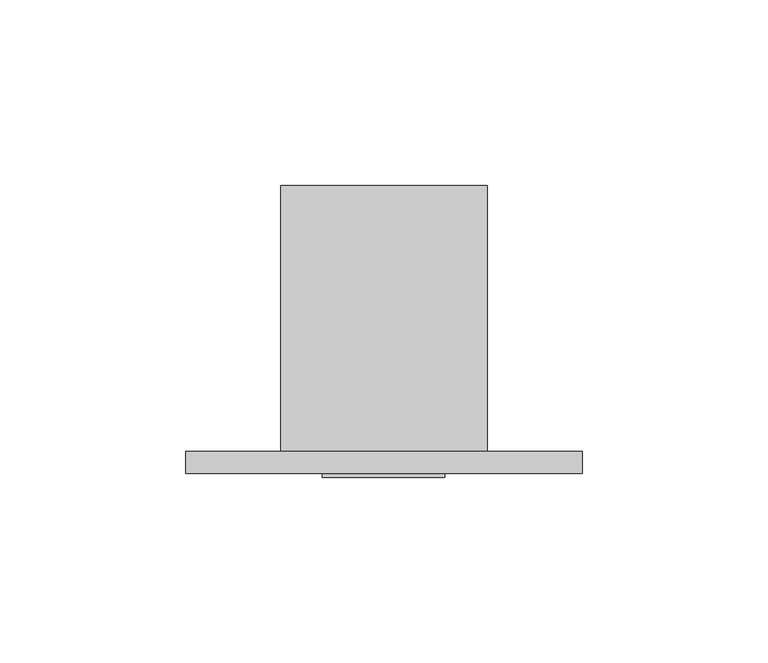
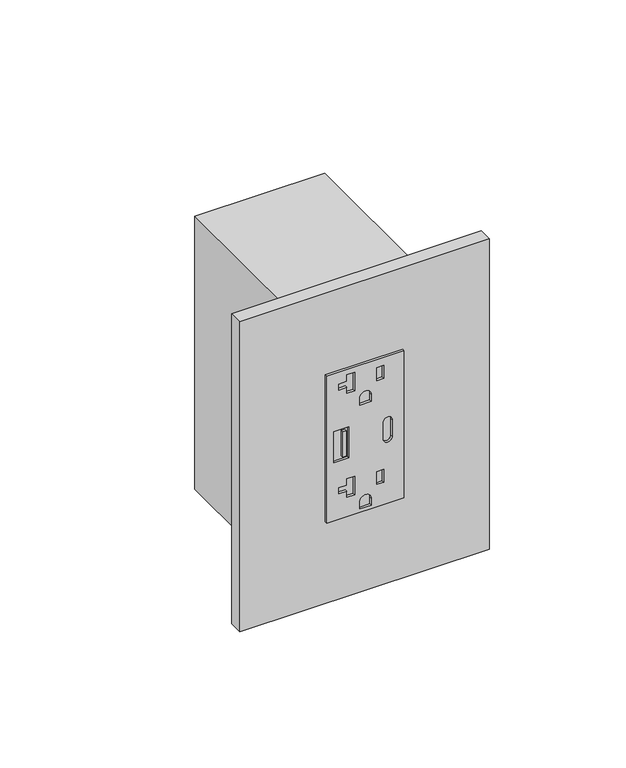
"""IFC4 building model written with IfcOpenShell, lengths in millimetres: proxy geometry, Electrical-Teknion-EPDMS_Vertical_Power_Data_Single-R2019 : PD Vertical Module - Single 20 Amp USB (A+C)."""

from ifc_helpers import new_model, si_unit, point, frame, frame_2d, origin, place, context, project, spatial, polyline, circle_curve, trimmed, segment, composite_curve, outline, extrude, source, transform, mapped, element, save


def electrical_fixtures_cbb62ec8(model_context):
    return source(origin(), model_context, "Body", "SweptSolid", [
        extrude(outline(polyline([(490.474, 11.0998), (423.926, 11.0998), (423.926, 44.0944), (490.474, 44.0944), (490.474, 11.0998)]), holes=[polyline([(464.2485, 14.0236066), (464.2485, 20.5246617), (450.1515, 20.5246617), (450.1515, 14.0236066), (464.2485, 14.0236066)]), composite_curve([segment(trimmed(circle_curve(frame_2d((460.9846, 37.1348)), 1.905), [point((460.9846, 35.2298))], [point((460.9846, 39.0398))], True, "CARTESIAN"), True, "CONTINUOUS"), segment(polyline([(460.9846, 39.0398), (453.4154, 39.0398)]), True, "CONTINUOUS"), segment(trimmed(circle_curve(frame_2d((453.4154, 37.1348)), 1.905), [point((453.4154, 39.0398))], [point((453.4154, 35.2298))], True, "CARTESIAN"), True, "CONTINUOUS"), segment(polyline([(453.4154, 35.2298), (460.9846, 35.2298)]), True, "CONTINUOUS")], self_intersect=False), composite_curve([segment(polyline([(425.45, 30.0609), (425.45, 25.1333), (428.5488, 25.1333)]), True, "CONTINUOUS"), segment(trimmed(circle_curve(frame_2d((428.5488, 27.5971)), 2.4638), [point((428.5488, 25.1333))], [point((428.5488, 30.0609))], True, "CARTESIAN"), True, "CONTINUOUS"), segment(polyline([(428.5488, 30.0609), (425.45, 30.0609)]), True, "CONTINUOUS")], self_intersect=False), polyline([(441.0202, 22.9616), (432.7211661, 22.9616), (432.7211661, 19.6342), (435.4043639, 19.6342), (435.4043639, 16.1036), (438.1419812, 16.1036), (438.1419812, 19.6342), (441.0202, 19.6342), (441.0202, 22.9616)]), composite_curve([segment(polyline([(472.44, 25.1333), (475.5388, 25.1333)]), True, "CONTINUOUS"), segment(trimmed(circle_curve(frame_2d((475.5388, 27.5971)), 2.4638), [point((475.5388, 25.1333))], [point((475.5388, 30.0609))], True, "CARTESIAN"), True, "CONTINUOUS"), segment(polyline([(475.5388, 30.0609), (472.44, 30.0609), (472.44, 25.1333)]), True, "CONTINUOUS")], self_intersect=False), polyline([(480.9574649, 32.4358), (486.7806175, 32.4358), (486.7806175, 35.41014), (480.9574649, 35.41014), (480.9574649, 32.4358)]), polyline([(433.9674649, 32.4358), (439.7906175, 32.4358), (439.7906175, 35.41014), (433.9674649, 35.41014), (433.9674649, 32.4358)]), polyline([(488.0102, 22.9616), (479.7111661, 22.9616), (479.7111661, 19.6342), (482.3943639, 19.6342), (482.3943639, 16.1036), (485.1319812, 16.1036), (485.1319812, 19.6342), (488.0102, 19.6342), (488.0102, 22.9616)])]), frame((0.0, -6.9294746, 0.0), z_axis=(0.0, 1.0, 0.0), x_axis=(0.0, 0.0, 1.0)), (0.0, 0.0, 1.0), 1.0366746),
        extrude(outline(polyline([(19.314835, -6.9294746), (17.7939058, -6.9294746), (17.7939058, -5.8928), (19.314835, -5.8928), (19.314835, -6.9294746)])), frame((0.0, 0.0, 451.4741546), z_axis=(0.0, 0.0, 1.0), x_axis=(1.0, 0.0, 0.0)), (0.0, 0.0, 1.0), 11.4436352),
        extrude(outline(polyline([(-25.6794, 0.0), (81.2292, 0.0), (81.2292, -5.8928), (-25.6794, -5.8928), (-25.6794, 0.0)])), frame((0.0, 0.0, 387.0198), z_axis=(0.0, 0.0, 1.0), x_axis=(1.0, 0.0, 0.0)), (0.0, 0.0, 1.0), 140.3604),
        extrude(outline(polyline([(55.5498, 0.0), (0.0, 0.0), (0.0, 71.7296), (55.5498, 71.7296), (55.5498, 0.0)])), frame((0.0, 0.0, 395.4526), z_axis=(0.0, 0.0, 1.0), x_axis=(1.0, 0.0, 0.0)), (0.0, 0.0, 1.0), 123.4948),
    ])


if __name__ == "__main__":
    model = new_model("IFC4")
    model_context = context("Model", 3, world=origin())
    ifc_project = project(units=[si_unit("LENGTHUNIT", "METRE", prefix="MILLI")], contexts=[model_context])
    site = spatial("IfcSite", under=ifc_project)
    building = spatial("IfcBuilding", under=site)
    placement = place(None, origin())
    electrical_fixtures_shape = electrical_fixtures_cbb62ec8(model_context)
    element("IfcBuildingElementProxy", 1, Name="Electrical-Teknion-EPDMS_Vertical_Power_Data_Single-R2019 : PD Vertical Module - Single 20 Amp USB (A+C)", ObjectType="Electrical-Teknion-EPDMS_Vertical_Power_Data_Single-R2019 : PD Vertical Module - Single 20 Amp USB (A+C)", at=placement, inside=building, context=model_context, shape_type="MappedRepresentation", body=[
        mapped(electrical_fixtures_shape, transform((0.0, 0.0, 0.0), x_axis=(1.0, 0.0, 0.0), y_axis=(0.0, 1.0, 0.0), z_axis=(0.0, 0.0, 1.0))),
    ])
    save(model, "model.ifc")
